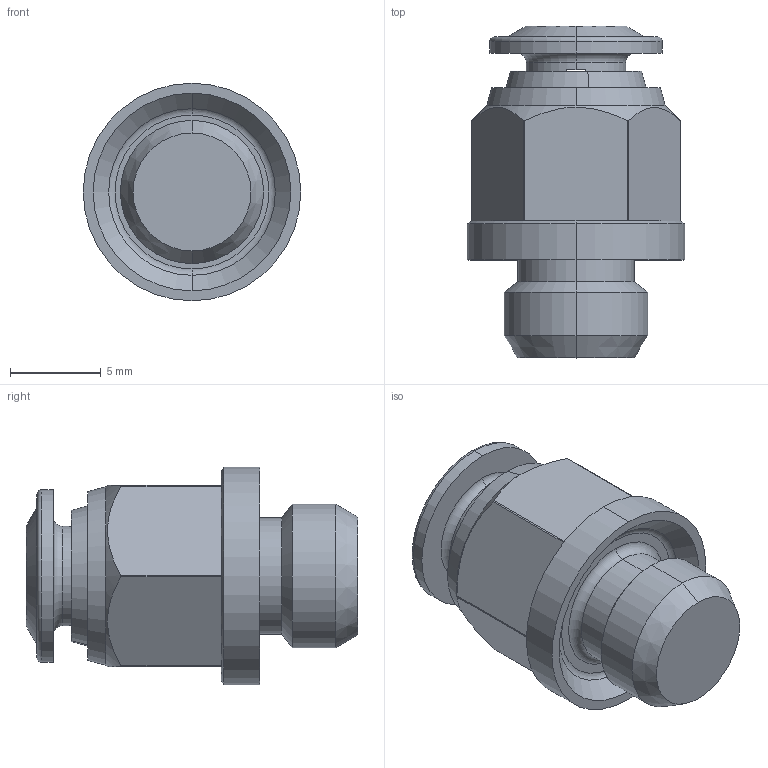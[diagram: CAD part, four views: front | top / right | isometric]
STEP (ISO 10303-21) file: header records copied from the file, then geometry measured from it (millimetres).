
FILE_DESCRIPTION (( 'STEP AP203' ), '1' );
FILE_NAME ('5702000033A.STEP', '2020-09-07T07:39:36', ( '' ), ( '' ), 'SwSTEP 2.0', 'SolidWorks 2016', '' );
FILE_SCHEMA (( 'CONFIG_CONTROL_DESIGN' ));
Length unit declared in the file: millimetre
Products named in the file (1): 5702000033A
Bounding box: 12 x 18.3 x 12 mm (x, y, z)
Volume: 1182.3 mm3; surface area: 901.1 mm2
Topology: 1 solids, 1 shells, 62 faces, 142 edges, 88 vertices
Faces by surface type: plane 24, cone 18, cylinder 12, torus 8
Entity records: 1901 total; most frequent: CARTESIAN_POINT 365, DIRECTION 338, ORIENTED_EDGE 284, EDGE_CURVE 142, AXIS2_PLACEMENT_3D 141, VERTEX_POINT 88, CIRCLE 78, EDGE_LOOP 70
